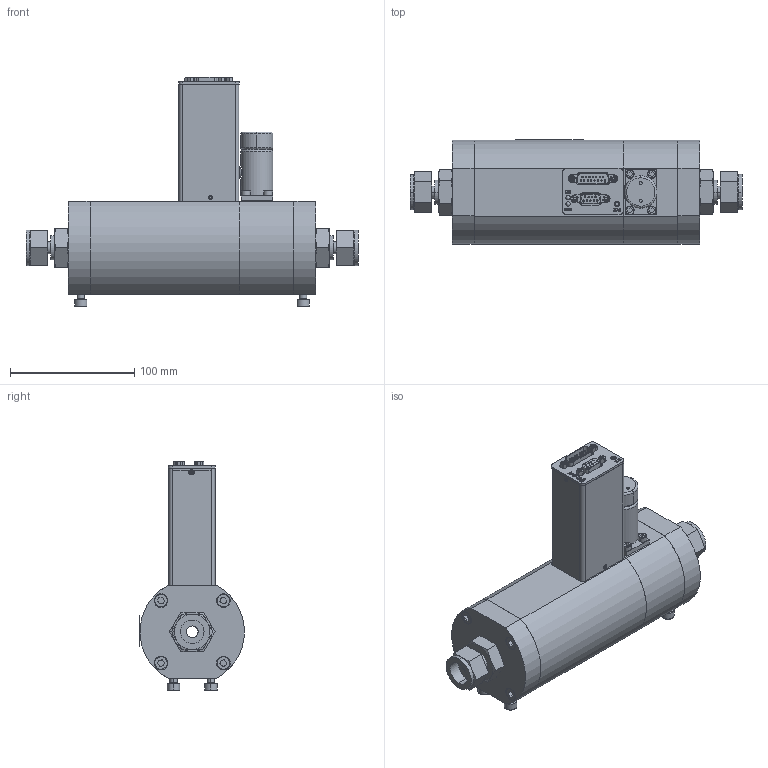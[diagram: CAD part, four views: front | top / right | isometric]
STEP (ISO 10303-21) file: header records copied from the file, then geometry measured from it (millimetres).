
FILE_DESCRIPTION (( 'STEP AP203' ), '1' );
FILE_NAME ('SLA5853-P-2E-2-C-REVB.STEP', '2018-11-12T18:05:26', ( '' ), ( '' ), 'SwSTEP 2.0', 'SolidWorks 2017', '' );
FILE_SCHEMA (( 'CONFIG_CONTROL_DESIGN' ));
Length unit declared in the file: inch
Products named in the file (1): SLA5853-P-2E-2-C-REVB
Bounding box: 266.87 x 84.02 x 184.54 mm (x, y, z)
Surface area: 129714.9 mm2 (no closed solid volume)
Topology: 0 solids, 99 shells, 787 faces, 2834 edges, 2090 vertices
Faces by surface type: plane 331, cylinder 260, cone 145, bspline 51
Entity records: 32809 total; most frequent: CARTESIAN_POINT 9135, DIRECTION 4896, ORIENTED_EDGE 4251, EDGE_CURVE 2822, VERTEX_POINT 2090, AXIS2_PLACEMENT_3D 1732, VECTOR 1432, LINE 1432
